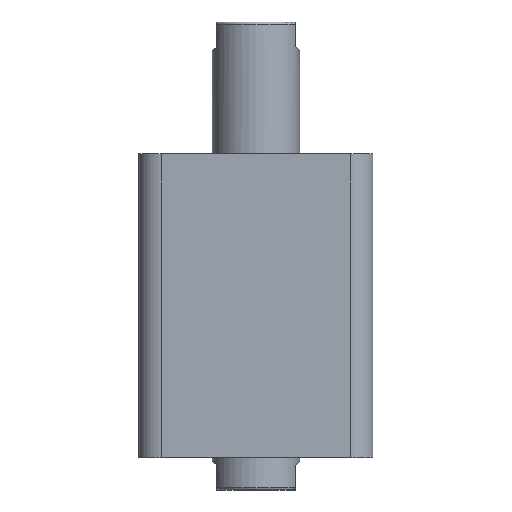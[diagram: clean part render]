
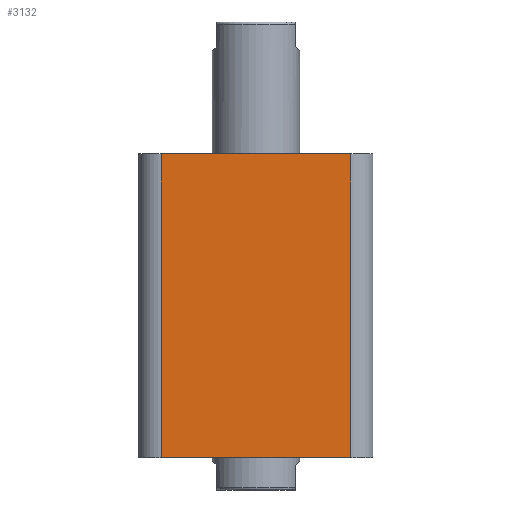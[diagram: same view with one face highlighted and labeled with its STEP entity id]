
A CAD part, front view. The second image highlights one B-rep face of the part: STEP entity #3132.
In plain terms, the highlighted planar face has unit normal (0, -1, 0).
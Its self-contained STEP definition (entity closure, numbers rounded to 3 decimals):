
#114 = CARTESIAN_POINT ( 'NONE',  ( -47., -47., 122. ) ) ;
#116 = PLANE ( 'NONE',  #2291 ) ;
#118 = DIRECTION ( 'NONE',  ( 0., 1., 0. ) ) ;
#119 = DIRECTION ( 'NONE',  ( 0., 0., 1. ) ) ;
#240 = CARTESIAN_POINT ( 'NONE',  ( 38., -47., 122. ) ) ;
#241 = CARTESIAN_POINT ( 'NONE',  ( -38., -47., 0. ) ) ;
#251 = CARTESIAN_POINT ( 'NONE',  ( 38., -47., 0. ) ) ;
#399 = LINE ( 'NONE', #1452, #402 ) ;
#400 = LINE ( 'NONE', #1451, #404 ) ;
#402 = VECTOR ( 'NONE', #1441, 1000. ) ;
#404 = VECTOR ( 'NONE', #1457, 1000. ) ;
#437 = LINE ( 'NONE', #1522, #440 ) ;
#439 = LINE ( 'NONE', #1526, #442 ) ;
#440 = VECTOR ( 'NONE', #1509, 1000. ) ;
#442 = VECTOR ( 'NONE', #1527, 1000. ) ;
#797 = FACE_OUTER_BOUND ( 'NONE', #2521, .T. ) ;
#1178 = CARTESIAN_POINT ( 'NONE',  ( -38., -47., 122. ) ) ;
#1441 = DIRECTION ( 'NONE',  ( 0., 0., -1. ) ) ;
#1451 = CARTESIAN_POINT ( 'NONE',  ( -47., -47., 122. ) ) ;
#1452 = CARTESIAN_POINT ( 'NONE',  ( -38., -47., 122. ) ) ;
#1457 = DIRECTION ( 'NONE',  ( 1., 0., 0. ) ) ;
#1509 = DIRECTION ( 'NONE',  ( 0., 0., 1. ) ) ;
#1522 = CARTESIAN_POINT ( 'NONE',  ( 38., -47., 122. ) ) ;
#1526 = CARTESIAN_POINT ( 'NONE',  ( -47., -47., 0. ) ) ;
#1527 = DIRECTION ( 'NONE',  ( 1., 0., 0. ) ) ;
#1891 = EDGE_CURVE ( 'NONE', #2500, #3244, #399, .T. ) ;
#1892 = EDGE_CURVE ( 'NONE', #2500, #3250, #400, .T. ) ;
#1918 = EDGE_CURVE ( 'NONE', #3258, #3250, #437, .T. ) ;
#1919 = EDGE_CURVE ( 'NONE', #3244, #3258, #439, .T. ) ;
#2291 = AXIS2_PLACEMENT_3D ( 'NONE', #114, #118, #119 ) ;
#2500 = VERTEX_POINT ( 'NONE', #1178 ) ;
#2521 = EDGE_LOOP ( 'NONE', ( #2918, #2919, #2920, #2921 ) ) ;
#2918 = ORIENTED_EDGE ( 'NONE', *, *, #1892, .F. ) ;
#2919 = ORIENTED_EDGE ( 'NONE', *, *, #1891, .T. ) ;
#2920 = ORIENTED_EDGE ( 'NONE', *, *, #1919, .T. ) ;
#2921 = ORIENTED_EDGE ( 'NONE', *, *, #1918, .T. ) ;
#3132 = ADVANCED_FACE ( 'NONE', ( #797 ), #116, .F. ) ;
#3244 = VERTEX_POINT ( 'NONE', #241 ) ;
#3250 = VERTEX_POINT ( 'NONE', #240 ) ;
#3258 = VERTEX_POINT ( 'NONE', #251 ) ;
